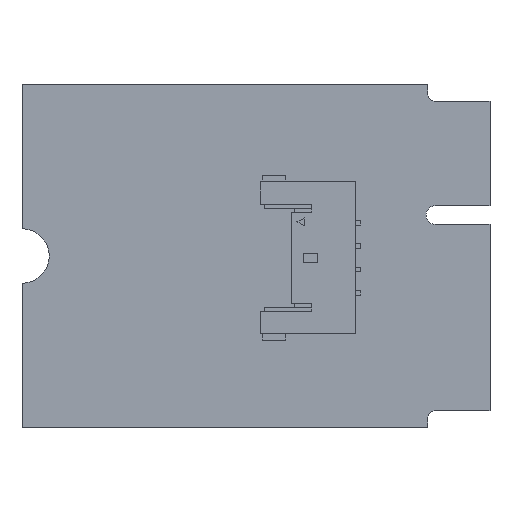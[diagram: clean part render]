
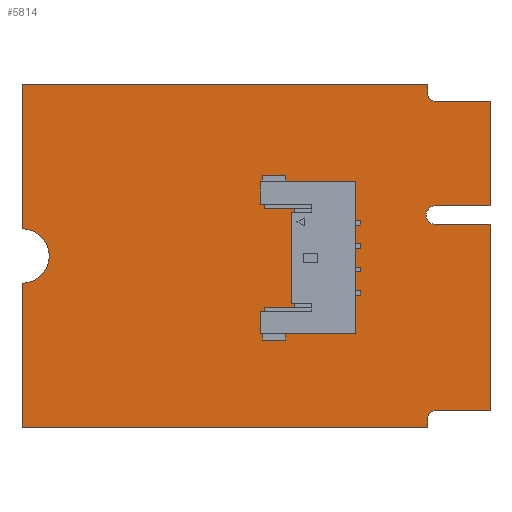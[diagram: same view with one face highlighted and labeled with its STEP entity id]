
A CAD part, top view. The second image highlights one B-rep face of the part: STEP entity #5814.
In plain terms, the highlighted planar face has unit normal (0, 0, 1).
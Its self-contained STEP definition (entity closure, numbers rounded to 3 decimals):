
#5293 = VERTEX_POINT('',#5294);
#5294 = CARTESIAN_POINT('',(235.718,-117.005,0.71));
#5300 = EDGE_CURVE('',#5293,#5301,#5303,.T.);
#5301 = VERTEX_POINT('',#5302);
#5302 = CARTESIAN_POINT('',(236.218,-117.505,0.71));
#5303 = CIRCLE('',#5304,0.5);
#5304 = AXIS2_PLACEMENT_3D('',#5305,#5306,#5307);
#5305 = CARTESIAN_POINT('',(236.218,-117.005,0.71));
#5306 = DIRECTION('',(0.,0.,1.));
#5307 = DIRECTION('',(-1.,0.,0.));
#5333 = EDGE_CURVE('',#5301,#5334,#5336,.T.);
#5334 = VERTEX_POINT('',#5335);
#5335 = CARTESIAN_POINT('',(239.718,-117.505,0.71));
#5336 = LINE('',#5337,#5338);
#5337 = CARTESIAN_POINT('',(236.218,-117.505,0.71));
#5338 = VECTOR('',#5339,1.);
#5339 = DIRECTION('',(1.,0.,0.));
#5364 = EDGE_CURVE('',#5334,#5365,#5367,.T.);
#5365 = VERTEX_POINT('',#5366);
#5366 = CARTESIAN_POINT('',(239.718,-124.205,0.71));
#5367 = LINE('',#5368,#5369);
#5368 = CARTESIAN_POINT('',(239.718,-117.505,0.71));
#5369 = VECTOR('',#5370,1.);
#5370 = DIRECTION('',(0.,-1.,0.));
#5395 = EDGE_CURVE('',#5365,#5396,#5398,.T.);
#5396 = VERTEX_POINT('',#5397);
#5397 = CARTESIAN_POINT('',(236.218,-124.205,0.71));
#5398 = LINE('',#5399,#5400);
#5399 = CARTESIAN_POINT('',(239.718,-124.205,0.71));
#5400 = VECTOR('',#5401,1.);
#5401 = DIRECTION('',(-1.,0.,0.));
#5426 = EDGE_CURVE('',#5396,#5427,#5429,.T.);
#5427 = VERTEX_POINT('',#5428);
#5428 = CARTESIAN_POINT('',(236.218,-125.405,0.71));
#5429 = CIRCLE('',#5430,0.6);
#5430 = AXIS2_PLACEMENT_3D('',#5431,#5432,#5433);
#5431 = CARTESIAN_POINT('',(236.218,-124.805,0.71));
#5432 = DIRECTION('',(0.,0.,1.));
#5433 = DIRECTION('',(0.,1.,0.));
#5459 = EDGE_CURVE('',#5427,#5460,#5462,.T.);
#5460 = VERTEX_POINT('',#5461);
#5461 = CARTESIAN_POINT('',(239.718,-125.405,0.71));
#5462 = LINE('',#5463,#5464);
#5463 = CARTESIAN_POINT('',(236.218,-125.405,0.71));
#5464 = VECTOR('',#5465,1.);
#5465 = DIRECTION('',(1.,0.,0.));
#5490 = EDGE_CURVE('',#5460,#5491,#5493,.T.);
#5491 = VERTEX_POINT('',#5492);
#5492 = CARTESIAN_POINT('',(239.718,-137.355,0.71));
#5493 = LINE('',#5494,#5495);
#5494 = CARTESIAN_POINT('',(239.718,-125.405,0.71));
#5495 = VECTOR('',#5496,1.);
#5496 = DIRECTION('',(0.,-1.,0.));
#5521 = EDGE_CURVE('',#5491,#5522,#5524,.T.);
#5522 = VERTEX_POINT('',#5523);
#5523 = CARTESIAN_POINT('',(236.218,-137.355,0.71));
#5524 = LINE('',#5525,#5526);
#5525 = CARTESIAN_POINT('',(239.718,-137.355,0.71));
#5526 = VECTOR('',#5527,1.);
#5527 = DIRECTION('',(-1.,0.,0.));
#5552 = EDGE_CURVE('',#5522,#5553,#5555,.T.);
#5553 = VERTEX_POINT('',#5554);
#5554 = CARTESIAN_POINT('',(235.718,-137.855,0.71));
#5555 = CIRCLE('',#5556,0.5);
#5556 = AXIS2_PLACEMENT_3D('',#5557,#5558,#5559);
#5557 = CARTESIAN_POINT('',(236.218,-137.855,0.71));
#5558 = DIRECTION('',(0.,0.,1.));
#5559 = DIRECTION('',(0.,1.,0.));
#5585 = EDGE_CURVE('',#5553,#5586,#5588,.T.);
#5586 = VERTEX_POINT('',#5587);
#5587 = CARTESIAN_POINT('',(235.718,-138.43,0.71));
#5588 = LINE('',#5589,#5590);
#5589 = CARTESIAN_POINT('',(235.718,-137.855,0.71));
#5590 = VECTOR('',#5591,1.);
#5591 = DIRECTION('',(0.,-1.,0.));
#5616 = EDGE_CURVE('',#5586,#5617,#5619,.T.);
#5617 = VERTEX_POINT('',#5618);
#5618 = CARTESIAN_POINT('',(209.718,-138.43,0.71));
#5619 = LINE('',#5620,#5621);
#5620 = CARTESIAN_POINT('',(235.718,-138.43,0.71));
#5621 = VECTOR('',#5622,1.);
#5622 = DIRECTION('',(-1.,0.,0.));
#5647 = EDGE_CURVE('',#5617,#5648,#5650,.T.);
#5648 = VERTEX_POINT('',#5649);
#5649 = CARTESIAN_POINT('',(209.718,-129.18,0.71));
#5650 = LINE('',#5651,#5652);
#5651 = CARTESIAN_POINT('',(209.718,-138.43,0.71));
#5652 = VECTOR('',#5653,1.);
#5653 = DIRECTION('',(0.,1.,0.));
#5678 = EDGE_CURVE('',#5648,#5679,#5681,.T.);
#5679 = VERTEX_POINT('',#5680);
#5680 = CARTESIAN_POINT('',(209.718,-125.68,0.71));
#5681 = CIRCLE('',#5682,1.75);
#5682 = AXIS2_PLACEMENT_3D('',#5683,#5684,#5685);
#5683 = CARTESIAN_POINT('',(209.718,-127.43,0.71));
#5684 = DIRECTION('',(0.,0.,1.));
#5685 = DIRECTION('',(-0.,-1.,0.));
#5711 = EDGE_CURVE('',#5679,#5712,#5714,.T.);
#5712 = VERTEX_POINT('',#5713);
#5713 = CARTESIAN_POINT('',(209.718,-116.43,0.71));
#5714 = LINE('',#5715,#5716);
#5715 = CARTESIAN_POINT('',(209.718,-125.68,0.71));
#5716 = VECTOR('',#5717,1.);
#5717 = DIRECTION('',(0.,1.,0.));
#5742 = EDGE_CURVE('',#5712,#5743,#5745,.T.);
#5743 = VERTEX_POINT('',#5744);
#5744 = CARTESIAN_POINT('',(235.718,-116.43,0.71));
#5745 = LINE('',#5746,#5747);
#5746 = CARTESIAN_POINT('',(209.718,-116.43,0.71));
#5747 = VECTOR('',#5748,1.);
#5748 = DIRECTION('',(1.,0.,0.));
#5773 = EDGE_CURVE('',#5743,#5293,#5774,.T.);
#5774 = LINE('',#5775,#5776);
#5775 = CARTESIAN_POINT('',(235.718,-116.43,0.71));
#5776 = VECTOR('',#5777,1.);
#5777 = DIRECTION('',(0.,-1.,0.));
#5814 = ADVANCED_FACE('',(#5815),#5833,.T.);
#5815 = FACE_BOUND('',#5816,.F.);
#5816 = EDGE_LOOP('',(#5817,#5818,#5819,#5820,#5821,#5822,#5823,#5824,
    #5825,#5826,#5827,#5828,#5829,#5830,#5831,#5832));
#5817 = ORIENTED_EDGE('',*,*,#5300,.T.);
#5818 = ORIENTED_EDGE('',*,*,#5333,.T.);
#5819 = ORIENTED_EDGE('',*,*,#5364,.T.);
#5820 = ORIENTED_EDGE('',*,*,#5395,.T.);
#5821 = ORIENTED_EDGE('',*,*,#5426,.T.);
#5822 = ORIENTED_EDGE('',*,*,#5459,.T.);
#5823 = ORIENTED_EDGE('',*,*,#5490,.T.);
#5824 = ORIENTED_EDGE('',*,*,#5521,.T.);
#5825 = ORIENTED_EDGE('',*,*,#5552,.T.);
#5826 = ORIENTED_EDGE('',*,*,#5585,.T.);
#5827 = ORIENTED_EDGE('',*,*,#5616,.T.);
#5828 = ORIENTED_EDGE('',*,*,#5647,.T.);
#5829 = ORIENTED_EDGE('',*,*,#5678,.T.);
#5830 = ORIENTED_EDGE('',*,*,#5711,.T.);
#5831 = ORIENTED_EDGE('',*,*,#5742,.T.);
#5832 = ORIENTED_EDGE('',*,*,#5773,.T.);
#5833 = PLANE('',#5834);
#5834 = AXIS2_PLACEMENT_3D('',#5835,#5836,#5837);
#5835 = CARTESIAN_POINT('',(0.,0.,0.71));
#5836 = DIRECTION('',(0.,0.,1.));
#5837 = DIRECTION('',(1.,0.,-0.));
